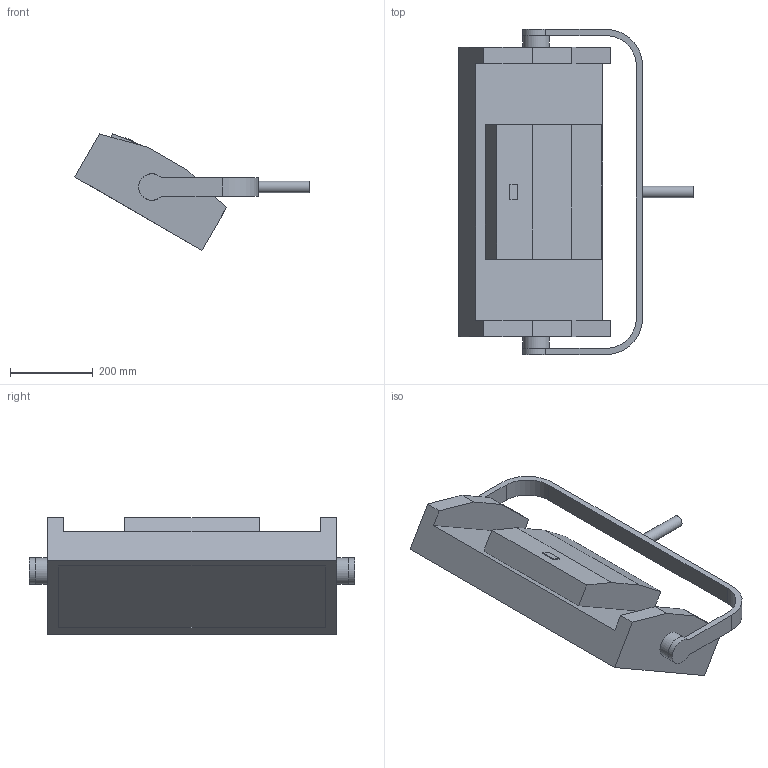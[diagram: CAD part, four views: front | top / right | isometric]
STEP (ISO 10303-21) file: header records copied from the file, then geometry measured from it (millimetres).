
FILE_DESCRIPTION(/* description */ (''),/* implementation_level */ '2;1');
FILE_NAME(/* name */ 'D:/dgooch/Documents/CADENG/PRO/onAir Panel 2 IP/30/3D/onAir Panel 2 IP_30.step',/* time_stamp */ '2021-03-16T16:29:35-04:00',/* author */ (''),/* organization */ (''),/* preprocessor_version */ 'ST-DEVELOPER v18.1',/* originating_system */ 'Autodesk Translation Framework v9.10.0.1330',/* authorisation */ '');
FILE_SCHEMA (('AUTOMOTIVE_DESIGN { 1 0 10303 214 3 1 1 }'));
Length unit declared in the file: millimetre
Products named in the file (3): onAirPanel2IP; Head; Bracket
Assembly tree (2 placements, depth 2):
  onAirPanel2IP
    Head
    Bracket
Bounding box: 566.98 x 786.9 x 282.24 mm (x, y, z)
Volume: 28571299.6 mm3; surface area: 1015849.1 mm2
Topology: 2 solids, 2 shells, 51 faces, 123 edges, 82 vertices
Faces by surface type: plane 42, cylinder 9
Full cylindrical faces by diameter (mm): 28 x1, 64.365 x2
Entity records: 1560 total; most frequent: CARTESIAN_POINT 261, DIRECTION 253, ORIENTED_EDGE 246, EDGE_CURVE 123, LINE 105, VECTOR 105, VERTEX_POINT 82, AXIS2_PLACEMENT_3D 74
